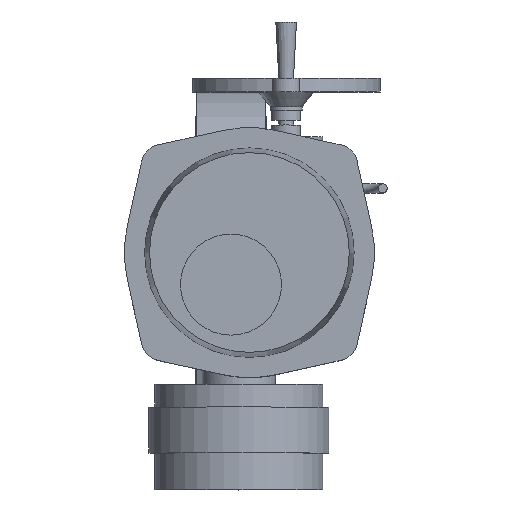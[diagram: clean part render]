
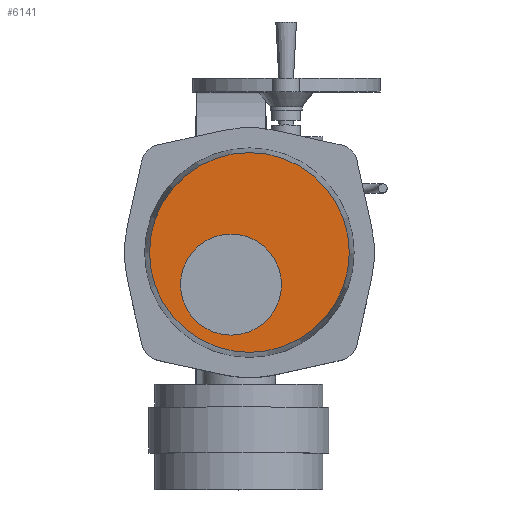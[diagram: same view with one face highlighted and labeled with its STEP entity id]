
A CAD part, top view. The second image highlights one B-rep face of the part: STEP entity #6141.
In plain terms, the highlighted planar face has unit normal (0, 0, 1).
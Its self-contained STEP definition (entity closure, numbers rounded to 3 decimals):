
#6141=ADVANCED_FACE('',(#12956,#12958),#12960,.T.);
#12956=FACE_BOUND('',#12957,.T.);
#12957=EDGE_LOOP('',(#17854));
#12958=FACE_BOUND('',#12959,.T.);
#12959=EDGE_LOOP('',(#17855));
#12960=PLANE('',#12961);
#12961=AXIS2_PLACEMENT_3D('',#12962,#12963,#12964);
#12962=CARTESIAN_POINT('',(20.,38.,689.));
#12963=DIRECTION('',(0.,0.,1.));
#12964=DIRECTION('',(-1.,0.,0.));
#17854=ORIENTED_EDGE('',*,*,#20312,.T.);
#17855=ORIENTED_EDGE('',*,*,#21431,.F.);
#20312=EDGE_CURVE('',#23542,#23542,#23543,.T.);
#21431=EDGE_CURVE('',#25217,#25217,#25218,.T.);
#23542=VERTEX_POINT('',#30880);
#23543=CIRCLE('',#30881,108.707);
#25217=VERTEX_POINT('',#35252);
#25218=CIRCLE('',#35253,55.);
#30880=CARTESIAN_POINT('',(-88.707,38.,689.));
#30881=AXIS2_PLACEMENT_3D('',#30882,#30883,#30884);
#30882=CARTESIAN_POINT('',(20.,38.,689.));
#30883=DIRECTION('',(0.,0.,1.));
#30884=DIRECTION('',(-1.,0.,0.));
#35252=CARTESIAN_POINT('',(-55.,3.,689.));
#35253=AXIS2_PLACEMENT_3D('',#35254,#35255,#35256);
#35254=CARTESIAN_POINT('',(0.,3.,689.));
#35255=DIRECTION('',(0.,0.,1.));
#35256=DIRECTION('',(-1.,0.,0.));
